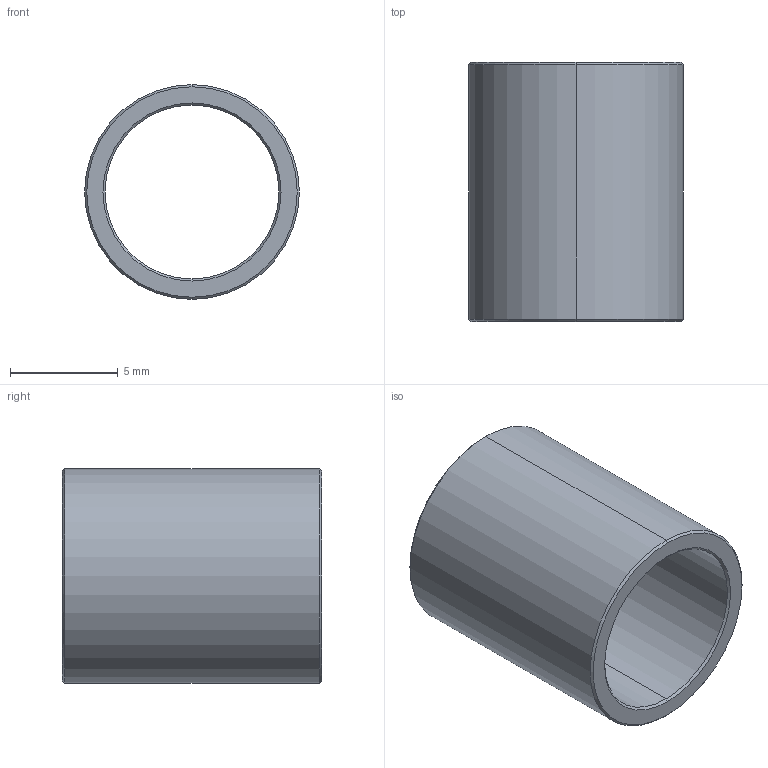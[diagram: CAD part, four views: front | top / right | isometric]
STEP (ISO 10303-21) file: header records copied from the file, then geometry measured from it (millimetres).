
FILE_DESCRIPTION (( 'STEP AP203' ), '1' );
FILE_NAME ('1522-0010-0120.STEP', '2021-02-26T19:47:45', ( '' ), ( '' ), 'SwSTEP 2.0', 'SolidWorks 2016', '' );
FILE_SCHEMA (( 'CONFIG_CONTROL_DESIGN' ));
Length unit declared in the file: millimetre
Products named in the file (1): 1522-0010-0120
Bounding box: 9.95 x 12 x 9.95 mm (x, y, z)
Volume: 321.8 mm3; surface area: 725.7 mm2
Topology: 1 solids, 1 shells, 14 faces, 28 edges, 16 vertices
Faces by surface type: cone 8, cylinder 4, plane 2
Entity records: 445 total; most frequent: DIRECTION 74, CARTESIAN_POINT 59, ORIENTED_EDGE 56, AXIS2_PLACEMENT_3D 31, EDGE_CURVE 28, VERTEX_POINT 16, CIRCLE 16, EDGE_LOOP 16
